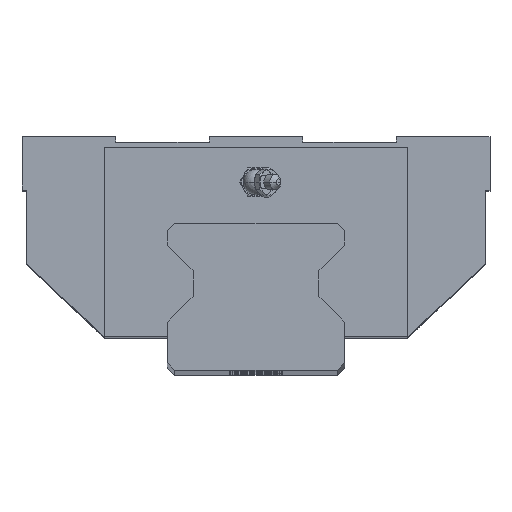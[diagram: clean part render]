
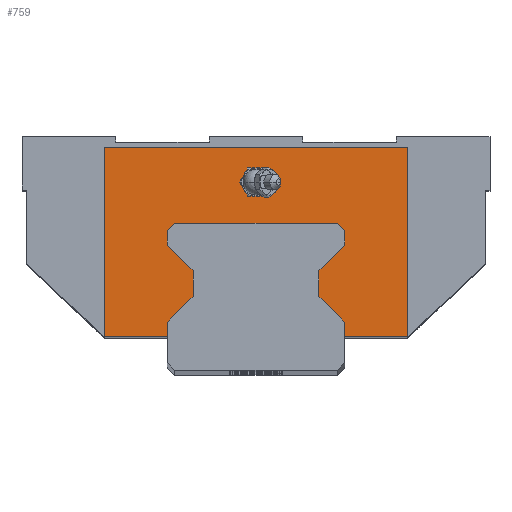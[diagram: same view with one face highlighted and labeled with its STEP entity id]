
A CAD part, top view. The second image highlights one B-rep face of the part: STEP entity #759.
In plain terms, the highlighted planar face has unit normal (0, 0, 1).
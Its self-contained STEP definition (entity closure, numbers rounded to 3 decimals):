
#759=ADVANCED_FACE('',(#1636,#1637),#1638,.T.);
#1636=FACE_BOUND('',#2611,.T.);
#1637=FACE_OUTER_BOUND('',#2612,.T.);
#1638=PLANE('',#2613);
#2611=EDGE_LOOP('',(#4810,#4811));
#2612=EDGE_LOOP('',(#4812,#4813,#4814,#4815,#4816,#4817,#4818,#4819,#4820,#4821,#4822,#4823,#4824,#4825,#4826,#4827,#4828,#4829));
#2613=AXIS2_PLACEMENT_3D('',#4830,#4831,#4832);
#4810=ORIENTED_EDGE('',*,*,#6423,.T.);
#4811=ORIENTED_EDGE('',*,*,#6469,.T.);
#4812=ORIENTED_EDGE('',*,*,#6336,.F.);
#4813=ORIENTED_EDGE('',*,*,#5853,.F.);
#4814=ORIENTED_EDGE('',*,*,#5741,.F.);
#4815=ORIENTED_EDGE('',*,*,#6448,.F.);
#4816=ORIENTED_EDGE('',*,*,#6470,.F.);
#4817=ORIENTED_EDGE('',*,*,#6471,.F.);
#4818=ORIENTED_EDGE('',*,*,#6416,.F.);
#4819=ORIENTED_EDGE('',*,*,#6472,.F.);
#4820=ORIENTED_EDGE('',*,*,#6473,.F.);
#4821=ORIENTED_EDGE('',*,*,#6434,.F.);
#4822=ORIENTED_EDGE('',*,*,#6474,.F.);
#4823=ORIENTED_EDGE('',*,*,#5904,.F.);
#4824=ORIENTED_EDGE('',*,*,#5753,.F.);
#4825=ORIENTED_EDGE('',*,*,#6475,.F.);
#4826=ORIENTED_EDGE('',*,*,#6273,.F.);
#4827=ORIENTED_EDGE('',*,*,#5635,.F.);
#4828=ORIENTED_EDGE('',*,*,#5972,.F.);
#4829=ORIENTED_EDGE('',*,*,#6328,.F.);
#4830=CARTESIAN_POINT('',(0.,40.604,-34.0));
#4831=DIRECTION('',(0.,0.,1.0));
#4832=DIRECTION('',(1.0,0.0,0.));
#5635=EDGE_CURVE('',#6733,#6735,#6736,.T.);
#5741=EDGE_CURVE('',#6918,#6920,#6921,.T.);
#5753=EDGE_CURVE('',#6937,#6939,#6940,.T.);
#5853=EDGE_CURVE('',#6920,#7108,#7109,.T.);
#5904=EDGE_CURVE('',#6939,#7190,#7191,.T.);
#5972=EDGE_CURVE('',#7300,#6733,#7302,.T.);
#6273=EDGE_CURVE('',#6735,#7745,#7746,.T.);
#6328=EDGE_CURVE('',#7816,#7300,#7818,.T.);
#6336=EDGE_CURVE('',#7108,#7816,#7827,.T.);
#6416=EDGE_CURVE('',#7923,#7925,#7926,.T.);
#6423=EDGE_CURVE('',#7931,#7933,#7935,.T.);
#6434=EDGE_CURVE('',#7945,#7947,#7948,.T.);
#6448=EDGE_CURVE('',#7961,#6918,#7963,.T.);
#6469=EDGE_CURVE('',#7933,#7931,#7986,.T.);
#6470=EDGE_CURVE('',#7987,#7961,#7988,.T.);
#6471=EDGE_CURVE('',#7925,#7987,#7989,.T.);
#6472=EDGE_CURVE('',#7990,#7923,#7991,.T.);
#6473=EDGE_CURVE('',#7947,#7990,#7992,.T.);
#6474=EDGE_CURVE('',#7190,#7945,#7993,.T.);
#6475=EDGE_CURVE('',#7745,#6937,#7994,.T.);
#6733=VERTEX_POINT('',#8306);
#6735=VERTEX_POINT('',#8309);
#6736=LINE('',#8310,#8311);
#6918=VERTEX_POINT('',#8647);
#6920=VERTEX_POINT('',#8650);
#6921=LINE('',#8651,#8652);
#6937=VERTEX_POINT('',#8682);
#6939=VERTEX_POINT('',#8685);
#6940=LINE('',#8686,#8687);
#7108=VERTEX_POINT('',#8920);
#7109=LINE('',#8921,#8922);
#7190=VERTEX_POINT('',#9070);
#7191=LINE('',#9071,#9072);
#7300=VERTEX_POINT('',#9216);
#7302=LINE('',#9219,#9220);
#7745=VERTEX_POINT('',#9886);
#7746=LINE('',#9887,#9888);
#7816=VERTEX_POINT('',#10028);
#7818=LINE('',#10031,#10032);
#7827=LINE('',#10044,#10045);
#7923=VERTEX_POINT('',#10273);
#7925=VERTEX_POINT('',#10276);
#7926=LINE('',#10277,#10278);
#7931=VERTEX_POINT('',#10295);
#7933=VERTEX_POINT('',#10298);
#7935=CIRCLE('',#10301,3.87);
#7945=VERTEX_POINT('',#10321);
#7947=VERTEX_POINT('',#10324);
#7948=LINE('',#10325,#10326);
#7961=VERTEX_POINT('',#10343);
#7963=LINE('',#10346,#10347);
#7986=CIRCLE('',#10374,3.87);
#7987=VERTEX_POINT('',#10375);
#7988=LINE('',#10376,#10377);
#7989=LINE('',#10378,#10379);
#7990=VERTEX_POINT('',#10380);
#7991=LINE('',#10381,#10382);
#7992=LINE('',#10383,#10384);
#7993=LINE('',#10385,#10386);
#7994=LINE('',#10387,#10388);
#8306=CARTESIAN_POINT('',(-18.833,29.733,-34.0));
#8309=CARTESIAN_POINT('',(-18.833,22.067,-34.0));
#8310=CARTESIAN_POINT('',(-18.833,29.733,-34.0));
#8311=VECTOR('',#10712,1000.0);
#8647=CARTESIAN_POINT('',(26.5,41.8,-34.0));
#8650=CARTESIAN_POINT('',(24.3,44.0,-34.0));
#8651=CARTESIAN_POINT('',(26.5,41.8,-34.0));
#8652=VECTOR('',#10848,1000.0);
#8682=CARTESIAN_POINT('',(-26.5,10.0,-34.0));
#8685=CARTESIAN_POINT('',(-45.4,10.0,-34.0));
#8686=CARTESIAN_POINT('',(-45.4,10.0,-34.0));
#8687=VECTOR('',#10858,1000.0);
#8920=CARTESIAN_POINT('',(-24.3,44.0,-34.0));
#8921=CARTESIAN_POINT('',(24.3,44.0,-34.0));
#8922=VECTOR('',#10972,1000.0);
#9070=CARTESIAN_POINT('',(-45.4,66.6,-34.0));
#9071=CARTESIAN_POINT('',(-45.4,10.0,-34.0));
#9072=VECTOR('',#11050,1000.0);
#9216=CARTESIAN_POINT('',(-26.5,37.4,-34.0));
#9219=CARTESIAN_POINT('',(-26.5,37.4,-34.0));
#9220=VECTOR('',#11147,1000.0);
#9886=CARTESIAN_POINT('',(-26.5,14.4,-34.0));
#9887=CARTESIAN_POINT('',(-18.833,22.067,-34.0));
#9888=VECTOR('',#11574,1000.0);
#10028=CARTESIAN_POINT('',(-26.5,41.8,-34.0));
#10031=CARTESIAN_POINT('',(-26.5,41.8,-34.0));
#10032=VECTOR('',#11622,1000.0);
#10044=CARTESIAN_POINT('',(-24.3,44.0,-34.0));
#10045=VECTOR('',#11629,1000.0);
#10273=CARTESIAN_POINT('',(26.5,14.4,-34.0));
#10276=CARTESIAN_POINT('',(18.833,22.067,-34.0));
#10277=CARTESIAN_POINT('',(26.5,14.4,-34.0));
#10278=VECTOR('',#11711,1000.0);
#10295=CARTESIAN_POINT('',(3.87,56.3,-34.0));
#10298=CARTESIAN_POINT('',(-3.87,56.3,-34.0));
#10301=AXIS2_PLACEMENT_3D('',#11715,#11716,#11717);
#10321=CARTESIAN_POINT('',(45.4,66.6,-34.0));
#10324=CARTESIAN_POINT('',(45.4,10.0,-34.0));
#10325=CARTESIAN_POINT('',(45.4,66.6,-34.0));
#10326=VECTOR('',#11726,1000.0);
#10343=CARTESIAN_POINT('',(26.5,37.4,-34.0));
#10346=CARTESIAN_POINT('',(26.5,37.4,-34.0));
#10347=VECTOR('',#11738,1000.0);
#10374=AXIS2_PLACEMENT_3D('',#11755,#11756,#11757);
#10375=CARTESIAN_POINT('',(18.833,29.733,-34.0));
#10376=CARTESIAN_POINT('',(18.833,29.733,-34.0));
#10377=VECTOR('',#11758,1000.0);
#10378=CARTESIAN_POINT('',(18.833,22.067,-34.0));
#10379=VECTOR('',#11759,1000.0);
#10380=CARTESIAN_POINT('',(26.5,10.0,-34.0));
#10381=CARTESIAN_POINT('',(26.5,10.0,-34.0));
#10382=VECTOR('',#11760,1000.0);
#10383=CARTESIAN_POINT('',(45.4,10.0,-34.0));
#10384=VECTOR('',#11761,1000.0);
#10385=CARTESIAN_POINT('',(-45.4,66.6,-34.0));
#10386=VECTOR('',#11762,1000.0);
#10387=CARTESIAN_POINT('',(-26.5,14.4,-34.0));
#10388=VECTOR('',#11763,1000.0);
#10712=DIRECTION('',(0.0,-1.0,0.0));
#10848=DIRECTION('',(-0.707,0.707,0.0));
#10858=DIRECTION('',(-1.0,-0.0,-0.0));
#10972=DIRECTION('',(-1.0,0.0,0.0));
#11050=DIRECTION('',(0.0,1.0,0.0));
#11147=DIRECTION('',(0.707,-0.707,0.0));
#11574=DIRECTION('',(-0.707,-0.707,0.0));
#11622=DIRECTION('',(0.0,-1.0,0.0));
#11629=DIRECTION('',(-0.707,-0.707,0.0));
#11711=DIRECTION('',(-0.707,0.707,0.0));
#11715=CARTESIAN_POINT('',(0.0,56.3,-34.0));
#11716=DIRECTION('',(0.,0.,-1.0));
#11717=DIRECTION('',(1.0,0.,0.));
#11726=DIRECTION('',(0.0,-1.0,0.0));
#11738=DIRECTION('',(0.0,1.0,0.0));
#11755=CARTESIAN_POINT('',(0.0,56.3,-34.0));
#11756=DIRECTION('',(0.,0.,-1.0));
#11757=DIRECTION('',(1.0,0.,0.));
#11758=DIRECTION('',(0.707,0.707,0.0));
#11759=DIRECTION('',(0.0,1.0,0.0));
#11760=DIRECTION('',(0.0,1.0,0.0));
#11761=DIRECTION('',(-1.0,0.0,0.0));
#11762=DIRECTION('',(1.0,0.0,0.0));
#11763=DIRECTION('',(0.0,-1.0,0.0));
